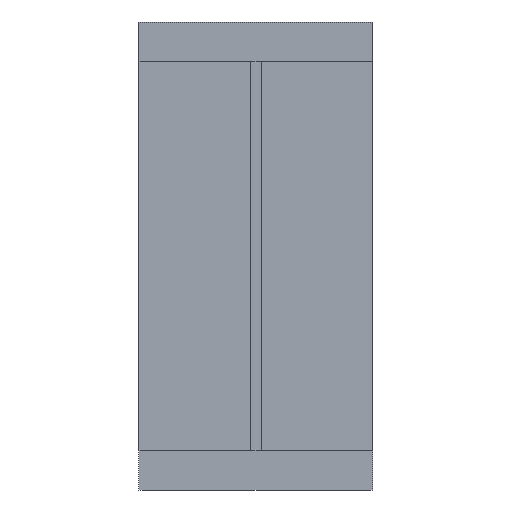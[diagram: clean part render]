
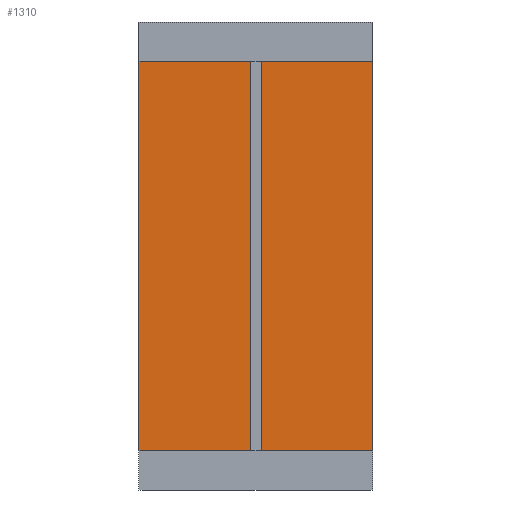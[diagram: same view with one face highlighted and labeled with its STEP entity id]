
A CAD part, front view. The second image highlights one B-rep face of the part: STEP entity #1310.
In plain terms, the highlighted planar face has unit normal (0, -1, 0).
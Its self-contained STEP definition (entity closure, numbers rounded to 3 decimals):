
#17 = DIRECTION ( 'NONE',  ( 0., 0., -1. ) ) ;
#23 = DIRECTION ( 'NONE',  ( 1., 0., 0. ) ) ;
#67 = VECTOR ( 'NONE', #805, 1000. ) ;
#83 = CARTESIAN_POINT ( 'NONE',  ( -290., 520., 1100. ) ) ;
#105 = DIRECTION ( 'NONE',  ( -1., 0., 0. ) ) ;
#113 = CARTESIAN_POINT ( 'NONE',  ( 290., 520., 1200. ) ) ;
#134 = LINE ( 'NONE', #1046, #440 ) ;
#140 = DIRECTION ( 'NONE',  ( 0., 0., 1. ) ) ;
#155 = LINE ( 'NONE', #354, #973 ) ;
#162 = VERTEX_POINT ( 'NONE', #1261 ) ;
#169 = DIRECTION ( 'NONE',  ( 0., 0., -1. ) ) ;
#171 = EDGE_CURVE ( 'NONE', #162, #1221, #620, .T. ) ;
#182 = ORIENTED_EDGE ( 'NONE', *, *, #1288, .F. ) ;
#198 = VERTEX_POINT ( 'NONE', #1255 ) ;
#227 = VERTEX_POINT ( 'NONE', #1047 ) ;
#236 = VERTEX_POINT ( 'NONE', #83 ) ;
#244 = VECTOR ( 'NONE', #683, 1000. ) ;
#336 = VERTEX_POINT ( 'NONE', #339 ) ;
#339 = CARTESIAN_POINT ( 'NONE',  ( -290., 520., 1200. ) ) ;
#344 = LINE ( 'NONE', #705, #67 ) ;
#351 = EDGE_CURVE ( 'NONE', #227, #1011, #155, .T. ) ;
#354 = CARTESIAN_POINT ( 'NONE',  ( 290., 520., 1100. ) ) ;
#355 = VECTOR ( 'NONE', #140, 1000. ) ;
#364 = LINE ( 'NONE', #599, #1025 ) ;
#366 = FACE_OUTER_BOUND ( 'NONE', #636, .T. ) ;
#396 = EDGE_CURVE ( 'NONE', #198, #682, #612, .T. ) ;
#413 = VECTOR ( 'NONE', #1075, 1000. ) ;
#422 = EDGE_CURVE ( 'NONE', #1011, #198, #344, .T. ) ;
#440 = VECTOR ( 'NONE', #916, 1000. ) ;
#445 = LINE ( 'NONE', #463, #244 ) ;
#463 = CARTESIAN_POINT ( 'NONE',  ( -290., 520., 0. ) ) ;
#520 = CARTESIAN_POINT ( 'NONE',  ( -290., 520., 100. ) ) ;
#534 = LINE ( 'NONE', #1414, #355 ) ;
#538 = CARTESIAN_POINT ( 'NONE',  ( 300., 520., 1100. ) ) ;
#567 = DIRECTION ( 'NONE',  ( 0., 0., -1. ) ) ;
#599 = CARTESIAN_POINT ( 'NONE',  ( -290., 520., 100. ) ) ;
#612 = LINE ( 'NONE', #1399, #1348 ) ;
#620 = LINE ( 'NONE', #1210, #413 ) ;
#624 = CARTESIAN_POINT ( 'NONE',  ( 290., 520., 0. ) ) ;
#636 = EDGE_LOOP ( 'NONE', ( #1144, #1272, #1161, #1329, #182, #719, #1381, #1462, #1142, #800, #794, #921 ) ) ;
#677 = EDGE_CURVE ( 'NONE', #336, #987, #134, .T. ) ;
#682 = VERTEX_POINT ( 'NONE', #1185 ) ;
#683 = DIRECTION ( 'NONE',  ( -1., 0., 0. ) ) ;
#698 = LINE ( 'NONE', #113, #1374 ) ;
#699 = LINE ( 'NONE', #1020, #743 ) ;
#705 = CARTESIAN_POINT ( 'NONE',  ( 300., 520., 1100. ) ) ;
#716 = EDGE_CURVE ( 'NONE', #1319, #911, #364, .T. ) ;
#719 = ORIENTED_EDGE ( 'NONE', *, *, #396, .F. ) ;
#731 = LINE ( 'NONE', #1197, #1208 ) ;
#743 = VECTOR ( 'NONE', #105, 1000. ) ;
#794 = ORIENTED_EDGE ( 'NONE', *, *, #1435, .F. ) ;
#796 = DIRECTION ( 'NONE',  ( 0., 0., 1. ) ) ;
#800 = ORIENTED_EDGE ( 'NONE', *, *, #677, .F. ) ;
#805 = DIRECTION ( 'NONE',  ( 0., 0., -1. ) ) ;
#817 = DIRECTION ( 'NONE',  ( 1., 0., 0. ) ) ;
#911 = VERTEX_POINT ( 'NONE', #520 ) ;
#916 = DIRECTION ( 'NONE',  ( 1., 0., 0. ) ) ;
#921 = ORIENTED_EDGE ( 'NONE', *, *, #1471, .F. ) ;
#930 = VECTOR ( 'NONE', #23, 1000. ) ;
#973 = VECTOR ( 'NONE', #817, 1000. ) ;
#987 = VERTEX_POINT ( 'NONE', #1372 ) ;
#1011 = VERTEX_POINT ( 'NONE', #538 ) ;
#1020 = CARTESIAN_POINT ( 'NONE',  ( -300., 520., 100. ) ) ;
#1025 = VECTOR ( 'NONE', #796, 1000. ) ;
#1046 = CARTESIAN_POINT ( 'NONE',  ( -290., 520., 1200. ) ) ;
#1047 = CARTESIAN_POINT ( 'NONE',  ( 290., 520., 1100. ) ) ;
#1049 = CARTESIAN_POINT ( 'NONE',  ( -300., 520., 1100. ) ) ;
#1060 = CARTESIAN_POINT ( 'NONE',  ( -290., 520., 1100. ) ) ;
#1075 = DIRECTION ( 'NONE',  ( 0., 0., 1. ) ) ;
#1142 = ORIENTED_EDGE ( 'NONE', *, *, #1207, .F. ) ;
#1144 = ORIENTED_EDGE ( 'NONE', *, *, #171, .F. ) ;
#1161 = ORIENTED_EDGE ( 'NONE', *, *, #716, .F. ) ;
#1185 = CARTESIAN_POINT ( 'NONE',  ( 290., 520., 100. ) ) ;
#1197 = CARTESIAN_POINT ( 'NONE',  ( 290., 520., 100. ) ) ;
#1198 = LINE ( 'NONE', #1060, #930 ) ;
#1200 = PLANE ( 'NONE',  #1398 ) ;
#1207 = EDGE_CURVE ( 'NONE', #987, #227, #698, .T. ) ;
#1208 = VECTOR ( 'NONE', #169, 1000. ) ;
#1210 = CARTESIAN_POINT ( 'NONE',  ( -300., 520., 1100. ) ) ;
#1221 = VERTEX_POINT ( 'NONE', #1049 ) ;
#1251 = VERTEX_POINT ( 'NONE', #624 ) ;
#1255 = CARTESIAN_POINT ( 'NONE',  ( 300., 520., 100. ) ) ;
#1261 = CARTESIAN_POINT ( 'NONE',  ( -300., 520., 100. ) ) ;
#1270 = DIRECTION ( 'NONE',  ( -1., 0., 0. ) ) ;
#1272 = ORIENTED_EDGE ( 'NONE', *, *, #1397, .F. ) ;
#1288 = EDGE_CURVE ( 'NONE', #682, #1251, #731, .T. ) ;
#1293 = CARTESIAN_POINT ( 'NONE',  ( -290., 520., 0. ) ) ;
#1301 = CARTESIAN_POINT ( 'NONE',  ( 0., 520., 0. ) ) ;
#1310 = ADVANCED_FACE ( 'NONE', ( #366 ), #1200, .T. ) ;
#1319 = VERTEX_POINT ( 'NONE', #1293 ) ;
#1329 = ORIENTED_EDGE ( 'NONE', *, *, #1386, .F. ) ;
#1348 = VECTOR ( 'NONE', #1270, 1000. ) ;
#1372 = CARTESIAN_POINT ( 'NONE',  ( 290., 520., 1200. ) ) ;
#1374 = VECTOR ( 'NONE', #567, 1000. ) ;
#1381 = ORIENTED_EDGE ( 'NONE', *, *, #422, .F. ) ;
#1386 = EDGE_CURVE ( 'NONE', #1251, #1319, #445, .T. ) ;
#1397 = EDGE_CURVE ( 'NONE', #911, #162, #699, .T. ) ;
#1398 = AXIS2_PLACEMENT_3D ( 'NONE', #1301, #1406, #17 ) ;
#1399 = CARTESIAN_POINT ( 'NONE',  ( 300., 520., 100. ) ) ;
#1406 = DIRECTION ( 'NONE',  ( 0., -1., 0. ) ) ;
#1414 = CARTESIAN_POINT ( 'NONE',  ( -290., 520., 1200. ) ) ;
#1435 = EDGE_CURVE ( 'NONE', #236, #336, #534, .T. ) ;
#1462 = ORIENTED_EDGE ( 'NONE', *, *, #351, .F. ) ;
#1471 = EDGE_CURVE ( 'NONE', #1221, #236, #1198, .T. ) ;
